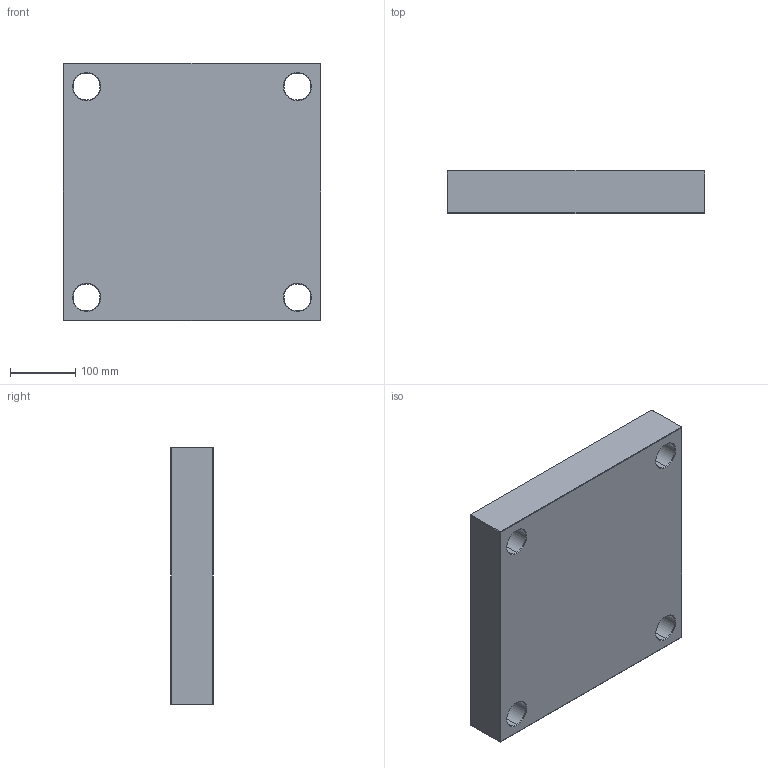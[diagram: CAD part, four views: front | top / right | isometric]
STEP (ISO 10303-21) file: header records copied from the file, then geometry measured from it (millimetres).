
FILE_DESCRIPTION (( 'STEP AP214' ), '1' );
FILE_NAME ('PCX-396x396x66.STEP', '2020-05-04T09:26:02', ( 'August' ), ( '' ), 'SwSTEP 2.0', 'SolidWorks 2018', '' );
FILE_SCHEMA (( 'AUTOMOTIVE_DESIGN' ));
Length unit declared in the file: millimetre
Products named in the file (1): PCX-396x396x66
Bounding box: 396 x 66 x 396 mm (x, y, z)
Volume: 9961856.7 mm3; surface area: 444496.3 mm2
Topology: 1 solids, 1 shells, 82 faces, 168 edges, 96 vertices
Faces by surface type: plane 34, cone 24, cylinder 24
Entity records: 2170 total; most frequent: DIRECTION 406, CARTESIAN_POINT 347, ORIENTED_EDGE 336, EDGE_CURVE 168, AXIS2_PLACEMENT_3D 155, EDGE_LOOP 98, VECTOR 96, LINE 96
